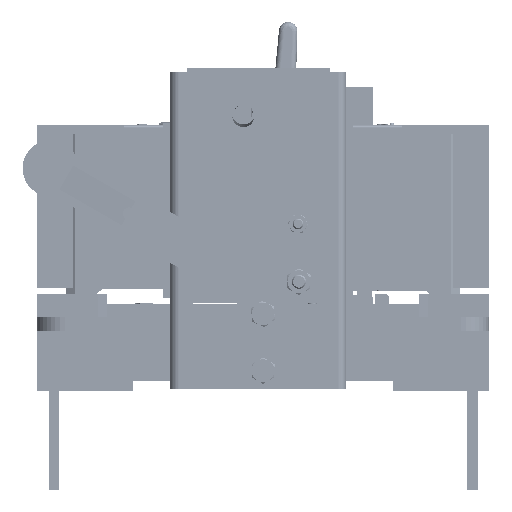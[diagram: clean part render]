
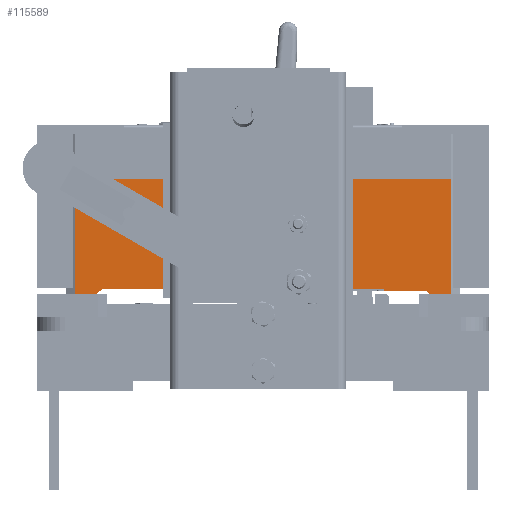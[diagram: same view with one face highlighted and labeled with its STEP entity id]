
A CAD part, left-side view. The second image highlights one B-rep face of the part: STEP entity #115589.
In plain terms, the highlighted planar face has unit normal (-1, 0, 0).
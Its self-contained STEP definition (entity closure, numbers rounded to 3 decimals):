
#9922 = LINE ( 'NONE', #104710, #9927 ) ;
#9927 = VECTOR ( 'NONE', #104713, 1000. ) ;
#9984 = LINE ( 'NONE', #104793, #9997 ) ;
#9997 = VECTOR ( 'NONE', #104811, 1000. ) ;
#13558 = EDGE_CURVE ( 'NONE', #82072, #82074, #9922, .T. ) ;
#13611 = EDGE_CURVE ( 'NONE', #82142, #82146, #9984, .T. ) ;
#36397 = EDGE_CURVE ( 'NONE', #82142, #54938, #89777, .T. ) ;
#36842 = EDGE_CURVE ( 'NONE', #69923, #55002, #91660, .T. ) ;
#36843 = EDGE_CURVE ( 'NONE', #82074, #54918, #91671, .T. ) ;
#36845 = EDGE_CURVE ( 'NONE', #54918, #69918, #91681, .T. ) ;
#36846 = EDGE_CURVE ( 'NONE', #54947, #54977, #91687, .T. ) ;
#36848 = EDGE_CURVE ( 'NONE', #54998, #55002, #91700, .T. ) ;
#36850 = EDGE_CURVE ( 'NONE', #54947, #54998, #91707, .T. ) ;
#36852 = EDGE_CURVE ( 'NONE', #82146, #54986, #91717, .T. ) ;
#36855 = EDGE_CURVE ( 'NONE', #54938, #54977, #91727, .T. ) ;
#36857 = EDGE_CURVE ( 'NONE', #54969, #54986, #91746, .T. ) ;
#36859 = EDGE_CURVE ( 'NONE', #82072, #54969, #91755, .T. ) ;
#54918 = VERTEX_POINT ( 'NONE', #94623 ) ;
#54938 = VERTEX_POINT ( 'NONE', #94633 ) ;
#54947 = VERTEX_POINT ( 'NONE', #94637 ) ;
#54969 = VERTEX_POINT ( 'NONE', #94647 ) ;
#54977 = VERTEX_POINT ( 'NONE', #94651 ) ;
#54986 = VERTEX_POINT ( 'NONE', #94655 ) ;
#54998 = VERTEX_POINT ( 'NONE', #94661 ) ;
#55002 = VERTEX_POINT ( 'NONE', #94663 ) ;
#62332 = EDGE_LOOP ( 'NONE', ( #152647, #152650, #152656, #152661, #152667, #152671, #152675, #152678, #152682, #152686, #152690, #152695, #152700, #152705 ) ) ;
#64321 = FACE_OUTER_BOUND ( 'NONE', #62332, .T. ) ;
#69918 = VERTEX_POINT ( 'NONE', #142770 ) ;
#69923 = VERTEX_POINT ( 'NONE', #142779 ) ;
#82072 = VERTEX_POINT ( 'NONE', #138349 ) ;
#82074 = VERTEX_POINT ( 'NONE', #138356 ) ;
#82142 = VERTEX_POINT ( 'NONE', #138558 ) ;
#82146 = VERTEX_POINT ( 'NONE', #138563 ) ;
#89656 = CARTESIAN_POINT ( 'NONE',  ( -127.903, 93.376, -45.262 ) ) ;
#89660 = DIRECTION ( 'NONE',  ( 0., 1., 0. ) ) ;
#89777 = LINE ( 'NONE', #160126, #89789 ) ;
#89789 = VECTOR ( 'NONE', #160128, 1000. ) ;
#91660 = LINE ( 'NONE', #120049, #91676 ) ;
#91671 = LINE ( 'NONE', #120056, #91684 ) ;
#91676 = VECTOR ( 'NONE', #120054, 1000. ) ;
#91681 = LINE ( 'NONE', #120062, #91694 ) ;
#91684 = VECTOR ( 'NONE', #120060, 1000. ) ;
#91687 = LINE ( 'NONE', #120069, #91704 ) ;
#91694 = VECTOR ( 'NONE', #120067, 1000. ) ;
#91700 = LINE ( 'NONE', #120075, #91712 ) ;
#91704 = VECTOR ( 'NONE', #120073, 1000. ) ;
#91707 = LINE ( 'NONE', #120082, #91723 ) ;
#91712 = VECTOR ( 'NONE', #120080, 1000. ) ;
#91717 = LINE ( 'NONE', #120088, #91732 ) ;
#91723 = VECTOR ( 'NONE', #120087, 1000. ) ;
#91727 = LINE ( 'NONE', #120094, #91742 ) ;
#91732 = VECTOR ( 'NONE', #120093, 1000. ) ;
#91742 = VECTOR ( 'NONE', #120097, 1000. ) ;
#91746 = LINE ( 'NONE', #120102, #91758 ) ;
#91755 = LINE ( 'NONE', #120106, #91767 ) ;
#91758 = VECTOR ( 'NONE', #120105, 1000. ) ;
#91767 = VECTOR ( 'NONE', #120109, 1000. ) ;
#92880 = EDGE_CURVE ( 'NONE', #69918, #69923, #127961, .T. ) ;
#94623 = CARTESIAN_POINT ( 'NONE',  ( -127.903, 55.059, -46.262 ) ) ;
#94633 = CARTESIAN_POINT ( 'NONE',  ( -127.903, -108.606, -48.212 ) ) ;
#94637 = CARTESIAN_POINT ( 'NONE',  ( -127.903, 105.164, 17.238 ) ) ;
#94647 = CARTESIAN_POINT ( 'NONE',  ( -127.903, -70.136, -45.212 ) ) ;
#94651 = CARTESIAN_POINT ( 'NONE',  ( -127.903, -108.606, 17.238 ) ) ;
#94655 = CARTESIAN_POINT ( 'NONE',  ( -127.903, -70.136, -46.262 ) ) ;
#94661 = CARTESIAN_POINT ( 'NONE',  ( -127.903, 105.164, -48.212 ) ) ;
#94663 = CARTESIAN_POINT ( 'NONE',  ( -127.903, 93.376, -48.212 ) ) ;
#104710 = CARTESIAN_POINT ( 'NONE',  ( -127.903, -47.971, -42.962 ) ) ;
#104713 = DIRECTION ( 'NONE',  ( 0., 0., -1. ) ) ;
#104793 = CARTESIAN_POINT ( 'NONE',  ( -127.903, -107.359, -56.327 ) ) ;
#104811 = DIRECTION ( 'NONE',  ( 0., 0.792, 0.61 ) ) ;
#115589 = ADVANCED_FACE ( 'NONE', ( #64321 ), #162971, .T. ) ;
#120049 = CARTESIAN_POINT ( 'NONE',  ( -127.903, -36.589, 51.835 ) ) ;
#120054 = DIRECTION ( 'NONE',  ( 0., 0.792, -0.61 ) ) ;
#120056 = CARTESIAN_POINT ( 'NONE',  ( -127.903, -47.971, -46.262 ) ) ;
#120060 = DIRECTION ( 'NONE',  ( 0., 1., 0. ) ) ;
#120062 = CARTESIAN_POINT ( 'NONE',  ( -127.903, 55.059, -46.262 ) ) ;
#120067 = DIRECTION ( 'NONE',  ( 0., 0., 1. ) ) ;
#120069 = CARTESIAN_POINT ( 'NONE',  ( -127.903, -113.606, 17.238 ) ) ;
#120073 = DIRECTION ( 'NONE',  ( 0., -1., 0. ) ) ;
#120075 = CARTESIAN_POINT ( 'NONE',  ( -127.903, -113.606, -48.212 ) ) ;
#120080 = DIRECTION ( 'NONE',  ( 0., -1., 0. ) ) ;
#120082 = CARTESIAN_POINT ( 'NONE',  ( -127.903, 105.164, -48.212 ) ) ;
#120087 = DIRECTION ( 'NONE',  ( 0., 0., -1. ) ) ;
#120088 = CARTESIAN_POINT ( 'NONE',  ( -127.903, -92.985, -46.262 ) ) ;
#120093 = DIRECTION ( 'NONE',  ( 0., 1., 0. ) ) ;
#120094 = CARTESIAN_POINT ( 'NONE',  ( -127.903, -108.606, -48.212 ) ) ;
#120097 = DIRECTION ( 'NONE',  ( 0., 0., 1. ) ) ;
#120102 = CARTESIAN_POINT ( 'NONE',  ( -127.903, -70.136, -42.962 ) ) ;
#120105 = DIRECTION ( 'NONE',  ( 0., 0., -1. ) ) ;
#120106 = CARTESIAN_POINT ( 'NONE',  ( -127.903, -73.399, -45.212 ) ) ;
#120109 = DIRECTION ( 'NONE',  ( 0., -1., 0. ) ) ;
#127961 = LINE ( 'NONE', #89656, #127969 ) ;
#127969 = VECTOR ( 'NONE', #89660, 1000. ) ;
#135925 = AXIS2_PLACEMENT_3D ( 'NONE', #162956, #162975, #162977 ) ;
#138349 = CARTESIAN_POINT ( 'NONE',  ( -127.903, -47.971, -45.212 ) ) ;
#138356 = CARTESIAN_POINT ( 'NONE',  ( -127.903, -47.971, -46.262 ) ) ;
#138558 = CARTESIAN_POINT ( 'NONE',  ( -127.903, -96.817, -48.212 ) ) ;
#138563 = CARTESIAN_POINT ( 'NONE',  ( -127.903, -94.284, -46.262 ) ) ;
#142770 = CARTESIAN_POINT ( 'NONE',  ( -127.903, 55.059, -45.262 ) ) ;
#142779 = CARTESIAN_POINT ( 'NONE',  ( -127.903, 89.543, -45.262 ) ) ;
#152647 = ORIENTED_EDGE ( 'NONE', *, *, #13558, .F. ) ;
#152650 = ORIENTED_EDGE ( 'NONE', *, *, #36859, .T. ) ;
#152656 = ORIENTED_EDGE ( 'NONE', *, *, #36857, .T. ) ;
#152661 = ORIENTED_EDGE ( 'NONE', *, *, #36852, .F. ) ;
#152667 = ORIENTED_EDGE ( 'NONE', *, *, #13611, .F. ) ;
#152671 = ORIENTED_EDGE ( 'NONE', *, *, #36397, .T. ) ;
#152675 = ORIENTED_EDGE ( 'NONE', *, *, #36855, .T. ) ;
#152678 = ORIENTED_EDGE ( 'NONE', *, *, #36846, .F. ) ;
#152682 = ORIENTED_EDGE ( 'NONE', *, *, #36850, .T. ) ;
#152686 = ORIENTED_EDGE ( 'NONE', *, *, #36848, .T. ) ;
#152690 = ORIENTED_EDGE ( 'NONE', *, *, #36842, .F. ) ;
#152695 = ORIENTED_EDGE ( 'NONE', *, *, #92880, .F. ) ;
#152700 = ORIENTED_EDGE ( 'NONE', *, *, #36845, .F. ) ;
#152705 = ORIENTED_EDGE ( 'NONE', *, *, #36843, .F. ) ;
#160126 = CARTESIAN_POINT ( 'NONE',  ( -127.903, -113.606, -48.212 ) ) ;
#160128 = DIRECTION ( 'NONE',  ( 0., -1., 0. ) ) ;
#162956 = CARTESIAN_POINT ( 'NONE',  ( -127.903, -113.606, -48.212 ) ) ;
#162971 = PLANE ( 'NONE',  #135925 ) ;
#162975 = DIRECTION ( 'NONE',  ( -1., 0., 0. ) ) ;
#162977 = DIRECTION ( 'NONE',  ( 0., -1., 0. ) ) ;
